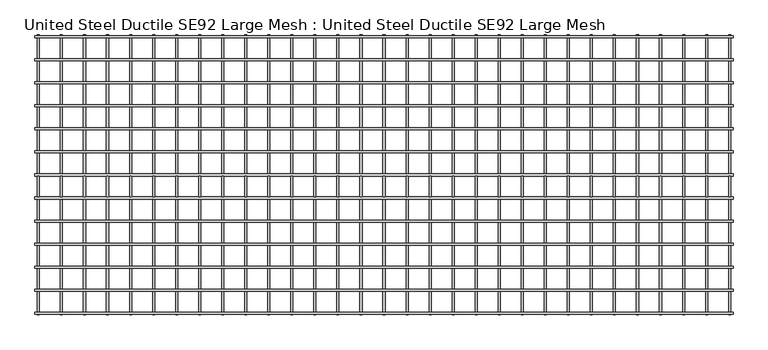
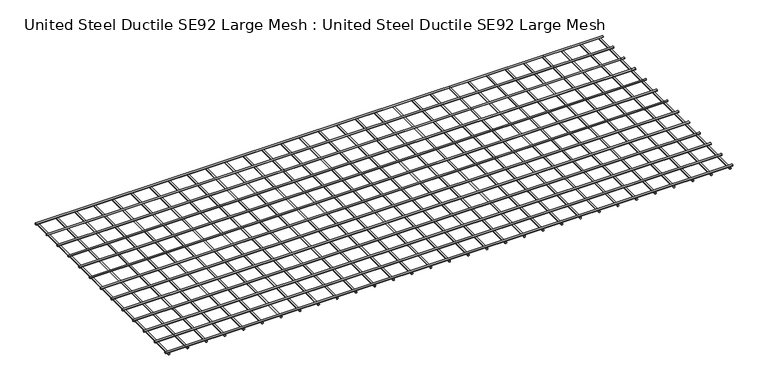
"""IFC4 building model written with IfcOpenShell, lengths in millimetres: proxy geometry, United Steel Ductile SE92 Large Mesh : United Steel Ductile SE92 Large Mesh."""

from ifc_helpers import new_model, si_unit, point, frame, frame_2d, origin, place, context, project, spatial, circle_curve, trimmed, segment, composite_curve, outline, extrude, source, transform, mapped, element, save


def united_steel_ductile_se92_large_mesh_united_steel_ductile_729967f6(model_context):
    return source(origin(), model_context, "Body", "SweptSolid", [
        extrude(outline(composite_curve([segment(trimmed(circle_curve(frame_2d((-215.851314, 26.8809412)), 9.0), [point((-224.851314, 26.8809412))], [point((-206.851314, 26.8809412))], False, "CARTESIAN"), True, "CONTINUOUS"), segment(trimmed(circle_curve(frame_2d((-215.851314, 26.8809412)), 9.0), [point((-206.851314, 26.8809412))], [point((-224.851314, 26.8809412))], False, "CARTESIAN"), True, "CONTINUOUS")], self_intersect=False)), frame((-6060.0, 0.0, 0.0), z_axis=(1.0, 0.0, 0.0), x_axis=(0.0, 1.0, 0.0)), (0.0, 0.0, 1.0), 6060.0),
        extrude(outline(composite_curve([segment(trimmed(circle_curve(frame_2d((-415.8334994, 26.8809412)), 9.0), [point((-424.8334994, 26.8809412))], [point((-406.8334994, 26.8809412))], False, "CARTESIAN"), True, "CONTINUOUS"), segment(trimmed(circle_curve(frame_2d((-415.8334994, 26.8809412)), 9.0), [point((-406.8334994, 26.8809412))], [point((-424.8334994, 26.8809412))], False, "CARTESIAN"), True, "CONTINUOUS")], self_intersect=False)), frame((-6060.0, 0.0, 0.0), z_axis=(1.0, 0.0, 0.0), x_axis=(0.0, 1.0, 0.0)), (0.0, 0.0, 1.0), 6060.0),
        extrude(outline(composite_curve([segment(trimmed(circle_curve(frame_2d((8.9562459, -5829.877103)), 9.0), [point((8.9562459, -5838.877103))], [point((8.9562459, -5820.877103))], False, "CARTESIAN"), True, "CONTINUOUS"), segment(trimmed(circle_curve(frame_2d((8.9562459, -5829.877103)), 9.0), [point((8.9562459, -5820.877103))], [point((8.9562459, -5838.877103))], False, "CARTESIAN"), True, "CONTINUOUS")], self_intersect=False)), frame((0.0, -2430.0, 0.0), z_axis=(0.0, 1.0, 0.0), x_axis=(0.0, 0.0, 1.0)), (0.0, 0.0, 1.0), 2430.0),
        extrude(outline(composite_curve([segment(trimmed(circle_curve(frame_2d((8.9562459, -5629.8804145)), 9.0), [point((8.9562459, -5638.8804145))], [point((8.9562459, -5620.8804145))], False, "CARTESIAN"), True, "CONTINUOUS"), segment(trimmed(circle_curve(frame_2d((8.9562459, -5629.8804145)), 9.0), [point((8.9562459, -5620.8804145))], [point((8.9562459, -5638.8804145))], False, "CARTESIAN"), True, "CONTINUOUS")], self_intersect=False)), frame((0.0, -2430.0, 0.0), z_axis=(0.0, 1.0, 0.0), x_axis=(0.0, 0.0, 1.0)), (0.0, 0.0, 1.0), 2430.0),
        extrude(outline(composite_curve([segment(trimmed(circle_curve(frame_2d((8.9562459, -5429.883726)), 9.0), [point((8.9562459, -5438.883726))], [point((8.9562459, -5420.883726))], False, "CARTESIAN"), True, "CONTINUOUS"), segment(trimmed(circle_curve(frame_2d((8.9562459, -5429.883726)), 9.0), [point((8.9562459, -5420.883726))], [point((8.9562459, -5438.883726))], False, "CARTESIAN"), True, "CONTINUOUS")], self_intersect=False)), frame((0.0, -2430.0, 0.0), z_axis=(0.0, 1.0, 0.0), x_axis=(0.0, 0.0, 1.0)), (0.0, 0.0, 1.0), 2430.0),
        extrude(outline(composite_curve([segment(trimmed(circle_curve(frame_2d((8.9562459, -5229.8870376)), 9.0), [point((8.9562459, -5238.8870376))], [point((8.9562459, -5220.8870376))], False, "CARTESIAN"), True, "CONTINUOUS"), segment(trimmed(circle_curve(frame_2d((8.9562459, -5229.8870376)), 9.0), [point((8.9562459, -5220.8870376))], [point((8.9562459, -5238.8870376))], False, "CARTESIAN"), True, "CONTINUOUS")], self_intersect=False)), frame((0.0, -2430.0, 0.0), z_axis=(0.0, 1.0, 0.0), x_axis=(0.0, 0.0, 1.0)), (0.0, 0.0, 1.0), 2430.0),
        extrude(outline(composite_curve([segment(trimmed(circle_curve(frame_2d((8.9562459, -5029.8903491)), 9.0), [point((8.9562459, -5038.8903491))], [point((8.9562459, -5020.8903491))], False, "CARTESIAN"), True, "CONTINUOUS"), segment(trimmed(circle_curve(frame_2d((8.9562459, -5029.8903491)), 9.0), [point((8.9562459, -5020.8903491))], [point((8.9562459, -5038.8903491))], False, "CARTESIAN"), True, "CONTINUOUS")], self_intersect=False)), frame((0.0, -2430.0, 0.0), z_axis=(0.0, 1.0, 0.0), x_axis=(0.0, 0.0, 1.0)), (0.0, 0.0, 1.0), 2430.0),
        extrude(outline(composite_curve([segment(trimmed(circle_curve(frame_2d((-615.8156849, 26.8809412)), 9.0), [point((-624.8156849, 26.8809412))], [point((-606.8156849, 26.8809412))], False, "CARTESIAN"), True, "CONTINUOUS"), segment(trimmed(circle_curve(frame_2d((-615.8156849, 26.8809412)), 9.0), [point((-606.8156849, 26.8809412))], [point((-624.8156849, 26.8809412))], False, "CARTESIAN"), True, "CONTINUOUS")], self_intersect=False)), frame((-6060.0, 0.0, 0.0), z_axis=(1.0, 0.0, 0.0), x_axis=(0.0, 1.0, 0.0)), (0.0, 0.0, 1.0), 6060.0),
        extrude(outline(composite_curve([segment(trimmed(circle_curve(frame_2d((-815.7978704, 26.8809412)), 9.0), [point((-824.7978704, 26.8809412))], [point((-806.7978704, 26.8809412))], False, "CARTESIAN"), True, "CONTINUOUS"), segment(trimmed(circle_curve(frame_2d((-815.7978704, 26.8809412)), 9.0), [point((-806.7978704, 26.8809412))], [point((-824.7978704, 26.8809412))], False, "CARTESIAN"), True, "CONTINUOUS")], self_intersect=False)), frame((-6060.0, 0.0, 0.0), z_axis=(1.0, 0.0, 0.0), x_axis=(0.0, 1.0, 0.0)), (0.0, 0.0, 1.0), 6060.0),
        extrude(outline(composite_curve([segment(trimmed(circle_curve(frame_2d((-1015.7800559, 26.8809412)), 9.0), [point((-1024.7800559, 26.8809412))], [point((-1006.7800559, 26.8809412))], False, "CARTESIAN"), True, "CONTINUOUS"), segment(trimmed(circle_curve(frame_2d((-1015.7800559, 26.8809412)), 9.0), [point((-1006.7800559, 26.8809412))], [point((-1024.7800559, 26.8809412))], False, "CARTESIAN"), True, "CONTINUOUS")], self_intersect=False)), frame((-6060.0, 0.0, 0.0), z_axis=(1.0, 0.0, 0.0), x_axis=(0.0, 1.0, 0.0)), (0.0, 0.0, 1.0), 6060.0),
        extrude(outline(composite_curve([segment(trimmed(circle_curve(frame_2d((-1215.7622413, 26.8809412)), 9.0), [point((-1224.7622413, 26.8809412))], [point((-1206.7622413, 26.8809412))], False, "CARTESIAN"), True, "CONTINUOUS"), segment(trimmed(circle_curve(frame_2d((-1215.7622413, 26.8809412)), 9.0), [point((-1206.7622413, 26.8809412))], [point((-1224.7622413, 26.8809412))], False, "CARTESIAN"), True, "CONTINUOUS")], self_intersect=False)), frame((-6060.0, 0.0, 0.0), z_axis=(1.0, 0.0, 0.0), x_axis=(0.0, 1.0, 0.0)), (0.0, 0.0, 1.0), 6060.0),
        extrude(outline(composite_curve([segment(trimmed(circle_curve(frame_2d((-1415.7444268, 26.8809412)), 9.0), [point((-1424.7444268, 26.8809412))], [point((-1406.7444268, 26.8809412))], False, "CARTESIAN"), True, "CONTINUOUS"), segment(trimmed(circle_curve(frame_2d((-1415.7444268, 26.8809412)), 9.0), [point((-1406.7444268, 26.8809412))], [point((-1424.7444268, 26.8809412))], False, "CARTESIAN"), True, "CONTINUOUS")], self_intersect=False)), frame((-6060.0, 0.0, 0.0), z_axis=(1.0, 0.0, 0.0), x_axis=(0.0, 1.0, 0.0)), (0.0, 0.0, 1.0), 6060.0),
        extrude(outline(composite_curve([segment(trimmed(circle_curve(frame_2d((-1615.7266123, 26.8809412)), 9.0), [point((-1624.7266123, 26.8809412))], [point((-1606.7266123, 26.8809412))], False, "CARTESIAN"), True, "CONTINUOUS"), segment(trimmed(circle_curve(frame_2d((-1615.7266123, 26.8809412)), 9.0), [point((-1606.7266123, 26.8809412))], [point((-1624.7266123, 26.8809412))], False, "CARTESIAN"), True, "CONTINUOUS")], self_intersect=False)), frame((-6060.0, 0.0, 0.0), z_axis=(1.0, 0.0, 0.0), x_axis=(0.0, 1.0, 0.0)), (0.0, 0.0, 1.0), 6060.0),
        extrude(outline(composite_curve([segment(trimmed(circle_curve(frame_2d((-1815.7087978, 26.8809412)), 9.0), [point((-1824.7087978, 26.8809412))], [point((-1806.7087978, 26.8809412))], False, "CARTESIAN"), True, "CONTINUOUS"), segment(trimmed(circle_curve(frame_2d((-1815.7087978, 26.8809412)), 9.0), [point((-1806.7087978, 26.8809412))], [point((-1824.7087978, 26.8809412))], False, "CARTESIAN"), True, "CONTINUOUS")], self_intersect=False)), frame((-6060.0, 0.0, 0.0), z_axis=(1.0, 0.0, 0.0), x_axis=(0.0, 1.0, 0.0)), (0.0, 0.0, 1.0), 6060.0),
        extrude(outline(composite_curve([segment(trimmed(circle_curve(frame_2d((-2015.6909832, 26.8809412)), 9.0), [point((-2024.6909832, 26.8809412))], [point((-2006.6909832, 26.8809412))], False, "CARTESIAN"), True, "CONTINUOUS"), segment(trimmed(circle_curve(frame_2d((-2015.6909832, 26.8809412)), 9.0), [point((-2006.6909832, 26.8809412))], [point((-2024.6909832, 26.8809412))], False, "CARTESIAN"), True, "CONTINUOUS")], self_intersect=False)), frame((-6060.0, 0.0, 0.0), z_axis=(1.0, 0.0, 0.0), x_axis=(0.0, 1.0, 0.0)), (0.0, 0.0, 1.0), 6060.0),
        extrude(outline(composite_curve([segment(trimmed(circle_curve(frame_2d((-2215.6731687, 26.8809412)), 9.0), [point((-2224.6731687, 26.8809412))], [point((-2206.6731687, 26.8809412))], False, "CARTESIAN"), True, "CONTINUOUS"), segment(trimmed(circle_curve(frame_2d((-2215.6731687, 26.8809412)), 9.0), [point((-2206.6731687, 26.8809412))], [point((-2224.6731687, 26.8809412))], False, "CARTESIAN"), True, "CONTINUOUS")], self_intersect=False)), frame((-6060.0, 0.0, 0.0), z_axis=(1.0, 0.0, 0.0), x_axis=(0.0, 1.0, 0.0)), (0.0, 0.0, 1.0), 6060.0),
        extrude(outline(composite_curve([segment(trimmed(circle_curve(frame_2d((-15.8691285, 26.8809412)), 9.0), [point((-24.8691285, 26.8809412))], [point((-6.8691285, 26.8809412))], False, "CARTESIAN"), True, "CONTINUOUS"), segment(trimmed(circle_curve(frame_2d((-15.8691285, 26.8809412)), 9.0), [point((-6.8691285, 26.8809412))], [point((-24.8691285, 26.8809412))], False, "CARTESIAN"), True, "CONTINUOUS")], self_intersect=False)), frame((-6060.0, 0.0, 0.0), z_axis=(1.0, 0.0, 0.0), x_axis=(0.0, 1.0, 0.0)), (0.0, 0.0, 1.0), 6060.0),
        extrude(outline(composite_curve([segment(trimmed(circle_curve(frame_2d((-2415.6553542, 26.8809412)), 9.0), [point((-2424.6553542, 26.8809412))], [point((-2406.6553542, 26.8809412))], False, "CARTESIAN"), True, "CONTINUOUS"), segment(trimmed(circle_curve(frame_2d((-2415.6553542, 26.8809412)), 9.0), [point((-2406.6553542, 26.8809412))], [point((-2424.6553542, 26.8809412))], False, "CARTESIAN"), True, "CONTINUOUS")], self_intersect=False)), frame((-6060.0, 0.0, 0.0), z_axis=(1.0, 0.0, 0.0), x_axis=(0.0, 1.0, 0.0)), (0.0, 0.0, 1.0), 6060.0),
        extrude(outline(composite_curve([segment(trimmed(circle_curve(frame_2d((8.9562459, -4829.8936606)), 9.0), [point((8.9562459, -4838.8936606))], [point((8.9562459, -4820.8936606))], False, "CARTESIAN"), True, "CONTINUOUS"), segment(trimmed(circle_curve(frame_2d((8.9562459, -4829.8936606)), 9.0), [point((8.9562459, -4820.8936606))], [point((8.9562459, -4838.8936606))], False, "CARTESIAN"), True, "CONTINUOUS")], self_intersect=False)), frame((0.0, -2430.0, 0.0), z_axis=(0.0, 1.0, 0.0), x_axis=(0.0, 0.0, 1.0)), (0.0, 0.0, 1.0), 2430.0),
        extrude(outline(composite_curve([segment(trimmed(circle_curve(frame_2d((8.9562459, -4629.8969721)), 9.0), [point((8.9562459, -4638.8969721))], [point((8.9562459, -4620.8969721))], False, "CARTESIAN"), True, "CONTINUOUS"), segment(trimmed(circle_curve(frame_2d((8.9562459, -4629.8969721)), 9.0), [point((8.9562459, -4620.8969721))], [point((8.9562459, -4638.8969721))], False, "CARTESIAN"), True, "CONTINUOUS")], self_intersect=False)), frame((0.0, -2430.0, 0.0), z_axis=(0.0, 1.0, 0.0), x_axis=(0.0, 0.0, 1.0)), (0.0, 0.0, 1.0), 2430.0),
        extrude(outline(composite_curve([segment(trimmed(circle_curve(frame_2d((8.9562459, -4429.9002836)), 9.0), [point((8.9562459, -4438.9002836))], [point((8.9562459, -4420.9002836))], False, "CARTESIAN"), True, "CONTINUOUS"), segment(trimmed(circle_curve(frame_2d((8.9562459, -4429.9002836)), 9.0), [point((8.9562459, -4420.9002836))], [point((8.9562459, -4438.9002836))], False, "CARTESIAN"), True, "CONTINUOUS")], self_intersect=False)), frame((0.0, -2430.0, 0.0), z_axis=(0.0, 1.0, 0.0), x_axis=(0.0, 0.0, 1.0)), (0.0, 0.0, 1.0), 2430.0),
        extrude(outline(composite_curve([segment(trimmed(circle_curve(frame_2d((8.9562459, -4229.9035951)), 9.0), [point((8.9562459, -4238.9035951))], [point((8.9562459, -4220.9035951))], False, "CARTESIAN"), True, "CONTINUOUS"), segment(trimmed(circle_curve(frame_2d((8.9562459, -4229.9035951)), 9.0), [point((8.9562459, -4220.9035951))], [point((8.9562459, -4238.9035951))], False, "CARTESIAN"), True, "CONTINUOUS")], self_intersect=False)), frame((0.0, -2430.0, 0.0), z_axis=(0.0, 1.0, 0.0), x_axis=(0.0, 0.0, 1.0)), (0.0, 0.0, 1.0), 2430.0),
        extrude(outline(composite_curve([segment(trimmed(circle_curve(frame_2d((8.9562459, -4029.9069067)), 9.0), [point((8.9562459, -4038.9069067))], [point((8.9562459, -4020.9069067))], False, "CARTESIAN"), True, "CONTINUOUS"), segment(trimmed(circle_curve(frame_2d((8.9562459, -4029.9069067)), 9.0), [point((8.9562459, -4020.9069067))], [point((8.9562459, -4038.9069067))], False, "CARTESIAN"), True, "CONTINUOUS")], self_intersect=False)), frame((0.0, -2430.0, 0.0), z_axis=(0.0, 1.0, 0.0), x_axis=(0.0, 0.0, 1.0)), (0.0, 0.0, 1.0), 2430.0),
        extrude(outline(composite_curve([segment(trimmed(circle_curve(frame_2d((8.9562459, -3829.9102182)), 9.0), [point((8.9562459, -3838.9102182))], [point((8.9562459, -3820.9102182))], False, "CARTESIAN"), True, "CONTINUOUS"), segment(trimmed(circle_curve(frame_2d((8.9562459, -3829.9102182)), 9.0), [point((8.9562459, -3820.9102182))], [point((8.9562459, -3838.9102182))], False, "CARTESIAN"), True, "CONTINUOUS")], self_intersect=False)), frame((0.0, -2430.0, 0.0), z_axis=(0.0, 1.0, 0.0), x_axis=(0.0, 0.0, 1.0)), (0.0, 0.0, 1.0), 2430.0),
        extrude(outline(composite_curve([segment(trimmed(circle_curve(frame_2d((8.9562459, -3629.9135297)), 9.0), [point((8.9562459, -3638.9135297))], [point((8.9562459, -3620.9135297))], False, "CARTESIAN"), True, "CONTINUOUS"), segment(trimmed(circle_curve(frame_2d((8.9562459, -3629.9135297)), 9.0), [point((8.9562459, -3620.9135297))], [point((8.9562459, -3638.9135297))], False, "CARTESIAN"), True, "CONTINUOUS")], self_intersect=False)), frame((0.0, -2430.0, 0.0), z_axis=(0.0, 1.0, 0.0), x_axis=(0.0, 0.0, 1.0)), (0.0, 0.0, 1.0), 2430.0),
        extrude(outline(composite_curve([segment(trimmed(circle_curve(frame_2d((8.9562459, -3429.9168412)), 9.0), [point((8.9562459, -3438.9168412))], [point((8.9562459, -3420.9168412))], False, "CARTESIAN"), True, "CONTINUOUS"), segment(trimmed(circle_curve(frame_2d((8.9562459, -3429.9168412)), 9.0), [point((8.9562459, -3420.9168412))], [point((8.9562459, -3438.9168412))], False, "CARTESIAN"), True, "CONTINUOUS")], self_intersect=False)), frame((0.0, -2430.0, 0.0), z_axis=(0.0, 1.0, 0.0), x_axis=(0.0, 0.0, 1.0)), (0.0, 0.0, 1.0), 2430.0),
        extrude(outline(composite_curve([segment(trimmed(circle_curve(frame_2d((8.9562459, -3229.9201527)), 9.0), [point((8.9562459, -3238.9201527))], [point((8.9562459, -3220.9201527))], False, "CARTESIAN"), True, "CONTINUOUS"), segment(trimmed(circle_curve(frame_2d((8.9562459, -3229.9201527)), 9.0), [point((8.9562459, -3220.9201527))], [point((8.9562459, -3238.9201527))], False, "CARTESIAN"), True, "CONTINUOUS")], self_intersect=False)), frame((0.0, -2430.0, 0.0), z_axis=(0.0, 1.0, 0.0), x_axis=(0.0, 0.0, 1.0)), (0.0, 0.0, 1.0), 2430.0),
        extrude(outline(composite_curve([segment(trimmed(circle_curve(frame_2d((8.9562459, -3029.9234643)), 9.0), [point((8.9562459, -3038.9234643))], [point((8.9562459, -3020.9234643))], False, "CARTESIAN"), True, "CONTINUOUS"), segment(trimmed(circle_curve(frame_2d((8.9562459, -3029.9234643)), 9.0), [point((8.9562459, -3020.9234643))], [point((8.9562459, -3038.9234643))], False, "CARTESIAN"), True, "CONTINUOUS")], self_intersect=False)), frame((0.0, -2430.0, 0.0), z_axis=(0.0, 1.0, 0.0), x_axis=(0.0, 0.0, 1.0)), (0.0, 0.0, 1.0), 2430.0),
        extrude(outline(composite_curve([segment(trimmed(circle_curve(frame_2d((8.9562459, -2829.9267758)), 9.0), [point((8.9562459, -2838.9267758))], [point((8.9562459, -2820.9267758))], False, "CARTESIAN"), True, "CONTINUOUS"), segment(trimmed(circle_curve(frame_2d((8.9562459, -2829.9267758)), 9.0), [point((8.9562459, -2820.9267758))], [point((8.9562459, -2838.9267758))], False, "CARTESIAN"), True, "CONTINUOUS")], self_intersect=False)), frame((0.0, -2430.0, 0.0), z_axis=(0.0, 1.0, 0.0), x_axis=(0.0, 0.0, 1.0)), (0.0, 0.0, 1.0), 2430.0),
        extrude(outline(composite_curve([segment(trimmed(circle_curve(frame_2d((8.9562459, -2629.9300873)), 9.0), [point((8.9562459, -2638.9300873))], [point((8.9562459, -2620.9300873))], False, "CARTESIAN"), True, "CONTINUOUS"), segment(trimmed(circle_curve(frame_2d((8.9562459, -2629.9300873)), 9.0), [point((8.9562459, -2620.9300873))], [point((8.9562459, -2638.9300873))], False, "CARTESIAN"), True, "CONTINUOUS")], self_intersect=False)), frame((0.0, -2430.0, 0.0), z_axis=(0.0, 1.0, 0.0), x_axis=(0.0, 0.0, 1.0)), (0.0, 0.0, 1.0), 2430.0),
        extrude(outline(composite_curve([segment(trimmed(circle_curve(frame_2d((8.9562459, -2429.9333988)), 9.0), [point((8.9562459, -2438.9333988))], [point((8.9562459, -2420.9333988))], False, "CARTESIAN"), True, "CONTINUOUS"), segment(trimmed(circle_curve(frame_2d((8.9562459, -2429.9333988)), 9.0), [point((8.9562459, -2420.9333988))], [point((8.9562459, -2438.9333988))], False, "CARTESIAN"), True, "CONTINUOUS")], self_intersect=False)), frame((0.0, -2430.0, 0.0), z_axis=(0.0, 1.0, 0.0), x_axis=(0.0, 0.0, 1.0)), (0.0, 0.0, 1.0), 2430.0),
        extrude(outline(composite_curve([segment(trimmed(circle_curve(frame_2d((8.9562459, -2229.9367103)), 9.0), [point((8.9562459, -2238.9367103))], [point((8.9562459, -2220.9367103))], False, "CARTESIAN"), True, "CONTINUOUS"), segment(trimmed(circle_curve(frame_2d((8.9562459, -2229.9367103)), 9.0), [point((8.9562459, -2220.9367103))], [point((8.9562459, -2238.9367103))], False, "CARTESIAN"), True, "CONTINUOUS")], self_intersect=False)), frame((0.0, -2430.0, 0.0), z_axis=(0.0, 1.0, 0.0), x_axis=(0.0, 0.0, 1.0)), (0.0, 0.0, 1.0), 2430.0),
        extrude(outline(composite_curve([segment(trimmed(circle_curve(frame_2d((8.9562459, -2029.9400218)), 9.0), [point((8.9562459, -2038.9400218))], [point((8.9562459, -2020.9400218))], False, "CARTESIAN"), True, "CONTINUOUS"), segment(trimmed(circle_curve(frame_2d((8.9562459, -2029.9400218)), 9.0), [point((8.9562459, -2020.9400218))], [point((8.9562459, -2038.9400218))], False, "CARTESIAN"), True, "CONTINUOUS")], self_intersect=False)), frame((0.0, -2430.0, 0.0), z_axis=(0.0, 1.0, 0.0), x_axis=(0.0, 0.0, 1.0)), (0.0, 0.0, 1.0), 2430.0),
        extrude(outline(composite_curve([segment(trimmed(circle_curve(frame_2d((8.9562459, -1829.9433334)), 9.0), [point((8.9562459, -1838.9433334))], [point((8.9562459, -1820.9433334))], False, "CARTESIAN"), True, "CONTINUOUS"), segment(trimmed(circle_curve(frame_2d((8.9562459, -1829.9433334)), 9.0), [point((8.9562459, -1820.9433334))], [point((8.9562459, -1838.9433334))], False, "CARTESIAN"), True, "CONTINUOUS")], self_intersect=False)), frame((0.0, -2430.0, 0.0), z_axis=(0.0, 1.0, 0.0), x_axis=(0.0, 0.0, 1.0)), (0.0, 0.0, 1.0), 2430.0),
        extrude(outline(composite_curve([segment(trimmed(circle_curve(frame_2d((8.9562459, -1629.9466449)), 9.0), [point((8.9562459, -1638.9466449))], [point((8.9562459, -1620.9466449))], False, "CARTESIAN"), True, "CONTINUOUS"), segment(trimmed(circle_curve(frame_2d((8.9562459, -1629.9466449)), 9.0), [point((8.9562459, -1620.9466449))], [point((8.9562459, -1638.9466449))], False, "CARTESIAN"), True, "CONTINUOUS")], self_intersect=False)), frame((0.0, -2430.0, 0.0), z_axis=(0.0, 1.0, 0.0), x_axis=(0.0, 0.0, 1.0)), (0.0, 0.0, 1.0), 2430.0),
        extrude(outline(composite_curve([segment(trimmed(circle_curve(frame_2d((8.9562459, -1429.9499564)), 9.0), [point((8.9562459, -1438.9499564))], [point((8.9562459, -1420.9499564))], False, "CARTESIAN"), True, "CONTINUOUS"), segment(trimmed(circle_curve(frame_2d((8.9562459, -1429.9499564)), 9.0), [point((8.9562459, -1420.9499564))], [point((8.9562459, -1438.9499564))], False, "CARTESIAN"), True, "CONTINUOUS")], self_intersect=False)), frame((0.0, -2430.0, 0.0), z_axis=(0.0, 1.0, 0.0), x_axis=(0.0, 0.0, 1.0)), (0.0, 0.0, 1.0), 2430.0),
        extrude(outline(composite_curve([segment(trimmed(circle_curve(frame_2d((8.9562459, -1229.9532679)), 9.0), [point((8.9562459, -1238.9532679))], [point((8.9562459, -1220.9532679))], False, "CARTESIAN"), True, "CONTINUOUS"), segment(trimmed(circle_curve(frame_2d((8.9562459, -1229.9532679)), 9.0), [point((8.9562459, -1220.9532679))], [point((8.9562459, -1238.9532679))], False, "CARTESIAN"), True, "CONTINUOUS")], self_intersect=False)), frame((0.0, -2430.0, 0.0), z_axis=(0.0, 1.0, 0.0), x_axis=(0.0, 0.0, 1.0)), (0.0, 0.0, 1.0), 2430.0),
        extrude(outline(composite_curve([segment(trimmed(circle_curve(frame_2d((8.9562459, -1029.9565794)), 9.0), [point((8.9562459, -1038.9565794))], [point((8.9562459, -1020.9565794))], False, "CARTESIAN"), True, "CONTINUOUS"), segment(trimmed(circle_curve(frame_2d((8.9562459, -1029.9565794)), 9.0), [point((8.9562459, -1020.9565794))], [point((8.9562459, -1038.9565794))], False, "CARTESIAN"), True, "CONTINUOUS")], self_intersect=False)), frame((0.0, -2430.0, 0.0), z_axis=(0.0, 1.0, 0.0), x_axis=(0.0, 0.0, 1.0)), (0.0, 0.0, 1.0), 2430.0),
        extrude(outline(composite_curve([segment(trimmed(circle_curve(frame_2d((8.9562459, -829.959891)), 9.0), [point((8.9562459, -838.959891))], [point((8.9562459, -820.959891))], False, "CARTESIAN"), True, "CONTINUOUS"), segment(trimmed(circle_curve(frame_2d((8.9562459, -829.959891)), 9.0), [point((8.9562459, -820.959891))], [point((8.9562459, -838.959891))], False, "CARTESIAN"), True, "CONTINUOUS")], self_intersect=False)), frame((0.0, -2430.0, 0.0), z_axis=(0.0, 1.0, 0.0), x_axis=(0.0, 0.0, 1.0)), (0.0, 0.0, 1.0), 2430.0),
        extrude(outline(composite_curve([segment(trimmed(circle_curve(frame_2d((8.9562459, -629.9632025)), 9.0), [point((8.9562459, -638.9632025))], [point((8.9562459, -620.9632025))], False, "CARTESIAN"), True, "CONTINUOUS"), segment(trimmed(circle_curve(frame_2d((8.9562459, -629.9632025)), 9.0), [point((8.9562459, -620.9632025))], [point((8.9562459, -638.9632025))], False, "CARTESIAN"), True, "CONTINUOUS")], self_intersect=False)), frame((0.0, -2430.0, 0.0), z_axis=(0.0, 1.0, 0.0), x_axis=(0.0, 0.0, 1.0)), (0.0, 0.0, 1.0), 2430.0),
        extrude(outline(composite_curve([segment(trimmed(circle_curve(frame_2d((8.9562459, -429.966514)), 9.0), [point((8.9562459, -438.966514))], [point((8.9562459, -420.966514))], False, "CARTESIAN"), True, "CONTINUOUS"), segment(trimmed(circle_curve(frame_2d((8.9562459, -429.966514)), 9.0), [point((8.9562459, -420.966514))], [point((8.9562459, -438.966514))], False, "CARTESIAN"), True, "CONTINUOUS")], self_intersect=False)), frame((0.0, -2430.0, 0.0), z_axis=(0.0, 1.0, 0.0), x_axis=(0.0, 0.0, 1.0)), (0.0, 0.0, 1.0), 2430.0),
        extrude(outline(composite_curve([segment(trimmed(circle_curve(frame_2d((8.9562459, -229.9698255)), 9.0), [point((8.9562459, -238.9698255))], [point((8.9562459, -220.9698255))], False, "CARTESIAN"), True, "CONTINUOUS"), segment(trimmed(circle_curve(frame_2d((8.9562459, -229.9698255)), 9.0), [point((8.9562459, -220.9698255))], [point((8.9562459, -238.9698255))], False, "CARTESIAN"), True, "CONTINUOUS")], self_intersect=False)), frame((0.0, -2430.0, 0.0), z_axis=(0.0, 1.0, 0.0), x_axis=(0.0, 0.0, 1.0)), (0.0, 0.0, 1.0), 2430.0),
        extrude(outline(composite_curve([segment(trimmed(circle_curve(frame_2d((8.9562459, -6029.8737915)), 9.0), [point((8.9562459, -6038.8737915))], [point((8.9562459, -6020.8737915))], False, "CARTESIAN"), True, "CONTINUOUS"), segment(trimmed(circle_curve(frame_2d((8.9562459, -6029.8737915)), 9.0), [point((8.9562459, -6020.8737915))], [point((8.9562459, -6038.8737915))], False, "CARTESIAN"), True, "CONTINUOUS")], self_intersect=False)), frame((0.0, -2430.0, 0.0), z_axis=(0.0, 1.0, 0.0), x_axis=(0.0, 0.0, 1.0)), (0.0, 0.0, 1.0), 2430.0),
        extrude(outline(composite_curve([segment(trimmed(circle_curve(frame_2d((8.9562459, -29.973137)), 9.0), [point((8.9562459, -38.973137))], [point((8.9562459, -20.973137))], False, "CARTESIAN"), True, "CONTINUOUS"), segment(trimmed(circle_curve(frame_2d((8.9562459, -29.973137)), 9.0), [point((8.9562459, -20.973137))], [point((8.9562459, -38.973137))], False, "CARTESIAN"), True, "CONTINUOUS")], self_intersect=False)), frame((0.0, -2430.0, 0.0), z_axis=(0.0, 1.0, 0.0), x_axis=(0.0, 0.0, 1.0)), (0.0, 0.0, 1.0), 2430.0),
    ])


if __name__ == "__main__":
    model = new_model("IFC4")
    model_context = context("Model", 3, world=origin())
    ifc_project = project(units=[si_unit("LENGTHUNIT", "METRE", prefix="MILLI")], contexts=[model_context])
    site = spatial("IfcSite", under=ifc_project)
    building = spatial("IfcBuilding", under=site)
    placement = place(None, origin())
    united_steel_ductile_se92_large_mesh_united_steel_ductile_shape = united_steel_ductile_se92_large_mesh_united_steel_ductile_729967f6(model_context)
    element("IfcBuildingElementProxy", 1, Name="United Steel Ductile SE92 Large Mesh : United Steel Ductile SE92 Large Mesh", ObjectType="United Steel Ductile SE92 Large Mesh : United Steel Ductile SE92 Large Mesh", at=placement, inside=building, context=model_context, shape_type="MappedRepresentation", body=[
        mapped(united_steel_ductile_se92_large_mesh_united_steel_ductile_shape, transform((0.0, 0.0, 0.0), x_axis=(1.0, 0.0, 0.0), y_axis=(0.0, 1.0, 0.0), z_axis=(0.0, 0.0, 1.0))),
    ])
    save(model, "model.ifc")
